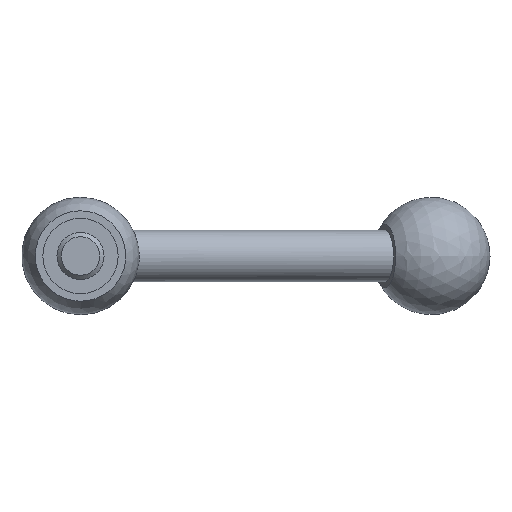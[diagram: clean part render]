
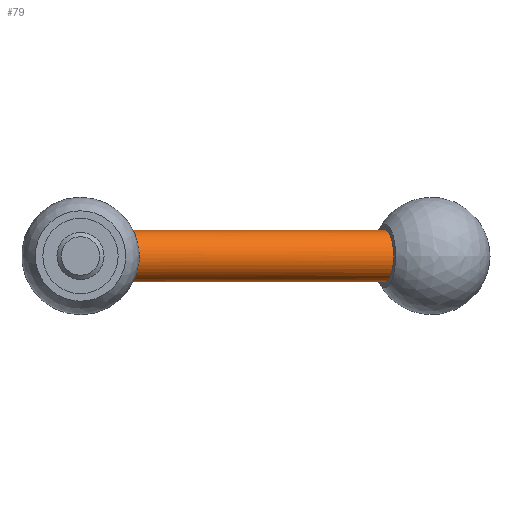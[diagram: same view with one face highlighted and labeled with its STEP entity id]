
A CAD part, front view. The second image highlights one B-rep face of the part: STEP entity #79.
In plain terms, the highlighted cylindrical face has radius 5.5 mm (diameter 11 mm), a full revolution.
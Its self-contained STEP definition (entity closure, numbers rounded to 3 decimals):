
#79 = ADVANCED_FACE( '', ( #100, #101 ), #102, .T. );
#100 = FACE_OUTER_BOUND( '', #137, .T. );
#101 = FACE_OUTER_BOUND( '', #138, .T. );
#102 = CYLINDRICAL_SURFACE( '', #139, 5.5 );
#137 = EDGE_LOOP( '', ( #184 ) );
#138 = EDGE_LOOP( '', ( #185, #186 ) );
#139 = AXIS2_PLACEMENT_3D( '', #187, #188, #189 );
#184 = ORIENTED_EDGE( '', *, *, #235, .F. );
#185 = ORIENTED_EDGE( '', *, *, #232, .F. );
#186 = ORIENTED_EDGE( '', *, *, #234, .T. );
#187 = CARTESIAN_POINT( '', ( 86.246, 49.775, 0. ) );
#188 = DIRECTION( '', ( -0.94, -0.342, 0. ) );
#189 = DIRECTION( '', ( -0.342, 0.94, 0. ) );
#232 = EDGE_CURVE( '', #248, #247, #250, .T. );
#234 = EDGE_CURVE( '', #248, #247, #253, .T. );
#235 = EDGE_CURVE( '', #254, #254, #255, .T. );
#247 = VERTEX_POINT( '', #272 );
#248 = VERTEX_POINT( '', #273 );
#250 = B_SPLINE_CURVE_WITH_KNOTS( '', 3, ( #275, #276, #277, #278, #279, #280, #281, #282, #283, #284, #285, #286, #287, #288, #289, #290, #291, #292, #293, #294, #295, #296, #297, #298, #299, #300, #301, #302, #303, #304, #305, #306, #307, #308, #309, #310, #311, #312, #313, #314, #315, #316, #317, #318, #319, #320, #321, #322, #323, #324, #325, #326, #327, #328, #329, #330, #331, #332, #333, #334 ), .UNSPECIFIED., .F., .F., ( 4, 2, 2, 2, 2, 2, 2, 2, 2, 2, 2, 2, 2, 2, 2, 2, 2, 2, 2, 2, 2, 2, 2, 2, 2, 2, 2, 2, 2, 4 ), ( 0., 0.002, 0.004, 0.005, 0.005, 0.006, 0.007, 0.008, 0.009, 0.01, 0.011, 0.012, 0.013, 0.014, 0.015, 0.015, 0.016, 0.017, 0.018, 0.019, 0.02, 0.021, 0.022, 0.023, 0.024, 0.024, 0.025, 0.026, 0.027, 0.029 ), .UNSPECIFIED. );
#253 = B_SPLINE_CURVE_WITH_KNOTS( '', 3, ( #337, #338, #339, #340, #341, #342, #343, #344, #345, #346, #347, #348, #349, #350 ), .UNSPECIFIED., .F., .F., ( 4, 2, 2, 2, 2, 2, 4 ), ( 0., 0.002, 0.002, 0.003, 0.004, 0.005, 0.006 ), .UNSPECIFIED. );
#254 = VERTEX_POINT( '', #351 );
#255 = CIRCLE( '', #352, 5.5 );
#272 = CARTESIAN_POINT( '', ( 6.981, 26., 2.74 ) );
#273 = CARTESIAN_POINT( '', ( 6.981, 26., -2.74 ) );
#275 = CARTESIAN_POINT( '', ( 6.981, 26., -2.74 ) );
#276 = CARTESIAN_POINT( '', ( 7.149, 25.738, -3.269 ) );
#277 = CARTESIAN_POINT( '', ( 7.359, 25.41, -3.732 ) );
#278 = CARTESIAN_POINT( '', ( 7.856, 24.625, -4.53 ) );
#279 = CARTESIAN_POINT( '', ( 8.132, 24.187, -4.845 ) );
#280 = CARTESIAN_POINT( '', ( 8.582, 23.466, -5.192 ) );
#281 = CARTESIAN_POINT( '', ( 8.736, 23.219, -5.284 ) );
#282 = CARTESIAN_POINT( '', ( 9.046, 22.718, -5.42 ) );
#283 = CARTESIAN_POINT( '', ( 9.203, 22.463, -5.465 ) );
#284 = CARTESIAN_POINT( '', ( 9.522, 21.945, -5.507 ) );
#285 = CARTESIAN_POINT( '', ( 9.682, 21.683, -5.504 ) );
#286 = CARTESIAN_POINT( '', ( 9.996, 21.169, -5.449 ) );
#287 = CARTESIAN_POINT( '', ( 10.151, 20.914, -5.398 ) );
#288 = CARTESIAN_POINT( '', ( 10.457, 20.41, -5.248 ) );
#289 = CARTESIAN_POINT( '', ( 10.608, 20.161, -5.148 ) );
#290 = CARTESIAN_POINT( '', ( 10.895, 19.685, -4.906 ) );
#291 = CARTESIAN_POINT( '', ( 11.032, 19.457, -4.764 ) );
#292 = CARTESIAN_POINT( '', ( 11.294, 19.019, -4.435 ) );
#293 = CARTESIAN_POINT( '', ( 11.42, 18.808, -4.247 ) );
#294 = CARTESIAN_POINT( '', ( 11.65, 18.422, -3.84 ) );
#295 = CARTESIAN_POINT( '', ( 11.756, 18.245, -3.62 ) );
#296 = CARTESIAN_POINT( '', ( 11.948, 17.921, -3.145 ) );
#297 = CARTESIAN_POINT( '', ( 12.036, 17.773, -2.888 ) );
#298 = CARTESIAN_POINT( '', ( 12.185, 17.521, -2.356 ) );
#299 = CARTESIAN_POINT( '', ( 12.248, 17.414, -2.08 ) );
#300 = CARTESIAN_POINT( '', ( 12.35, 17.242, -1.508 ) );
#301 = CARTESIAN_POINT( '', ( 12.389, 17.175, -1.21 ) );
#302 = CARTESIAN_POINT( '', ( 12.441, 17.087, -0.61 ) );
#303 = CARTESIAN_POINT( '', ( 12.454, 17.065, -0.309 ) );
#304 = CARTESIAN_POINT( '', ( 12.455, 17.064, 0.297 ) );
#305 = CARTESIAN_POINT( '', ( 12.442, 17.086, 0.605 ) );
#306 = CARTESIAN_POINT( '', ( 12.39, 17.174, 1.204 ) );
#307 = CARTESIAN_POINT( '', ( 12.352, 17.239, 1.497 ) );
#308 = CARTESIAN_POINT( '', ( 12.25, 17.41, 2.069 ) );
#309 = CARTESIAN_POINT( '', ( 12.186, 17.519, 2.351 ) );
#310 = CARTESIAN_POINT( '', ( 12.037, 17.771, 2.884 ) );
#311 = CARTESIAN_POINT( '', ( 11.952, 17.915, 3.136 ) );
#312 = CARTESIAN_POINT( '', ( 11.76, 18.238, 3.611 ) );
#313 = CARTESIAN_POINT( '', ( 11.652, 18.419, 3.837 ) );
#314 = CARTESIAN_POINT( '', ( 11.421, 18.806, 4.245 ) );
#315 = CARTESIAN_POINT( '', ( 11.298, 19.012, 4.43 ) );
#316 = CARTESIAN_POINT( '', ( 11.036, 19.449, 4.758 ) );
#317 = CARTESIAN_POINT( '', ( 10.897, 19.682, 4.904 ) );
#318 = CARTESIAN_POINT( '', ( 10.609, 20.159, 5.148 ) );
#319 = CARTESIAN_POINT( '', ( 10.461, 20.404, 5.246 ) );
#320 = CARTESIAN_POINT( '', ( 10.157, 20.906, 5.396 ) );
#321 = CARTESIAN_POINT( '', ( 9.999, 21.165, 5.449 ) );
#322 = CARTESIAN_POINT( '', ( 9.683, 21.683, 5.504 ) );
#323 = CARTESIAN_POINT( '', ( 9.525, 21.941, 5.507 ) );
#324 = CARTESIAN_POINT( '', ( 9.208, 22.455, 5.466 ) );
#325 = CARTESIAN_POINT( '', ( 9.049, 22.713, 5.422 ) );
#326 = CARTESIAN_POINT( '', ( 8.736, 23.218, 5.284 ) );
#327 = CARTESIAN_POINT( '', ( 8.583, 23.463, 5.193 ) );
#328 = CARTESIAN_POINT( '', ( 8.287, 23.939, 4.965 ) );
#329 = CARTESIAN_POINT( '', ( 8.142, 24.169, 4.828 ) );
#330 = CARTESIAN_POINT( '', ( 7.864, 24.612, 4.51 ) );
#331 = CARTESIAN_POINT( '', ( 7.733, 24.819, 4.332 ) );
#332 = CARTESIAN_POINT( '', ( 7.365, 25.401, 3.742 ) );
#333 = CARTESIAN_POINT( '', ( 7.149, 25.738, 3.269 ) );
#334 = CARTESIAN_POINT( '', ( 6.981, 26., 2.74 ) );
#337 = CARTESIAN_POINT( '', ( 6.981, 26., -2.74 ) );
#338 = CARTESIAN_POINT( '', ( 7.133, 26.29, -2.355 ) );
#339 = CARTESIAN_POINT( '', ( 7.262, 26.531, -1.933 ) );
#340 = CARTESIAN_POINT( '', ( 7.402, 26.788, -1.234 ) );
#341 = CARTESIAN_POINT( '', ( 7.438, 26.854, -0.996 ) );
#342 = CARTESIAN_POINT( '', ( 7.487, 26.943, -0.508 ) );
#343 = CARTESIAN_POINT( '', ( 7.5, 26.967, -0.257 ) );
#344 = CARTESIAN_POINT( '', ( 7.5, 26.967, 0.248 ) );
#345 = CARTESIAN_POINT( '', ( 7.488, 26.944, 0.497 ) );
#346 = CARTESIAN_POINT( '', ( 7.439, 26.856, 0.987 ) );
#347 = CARTESIAN_POINT( '', ( 7.402, 26.789, 1.231 ) );
#348 = CARTESIAN_POINT( '', ( 7.264, 26.534, 1.927 ) );
#349 = CARTESIAN_POINT( '', ( 7.133, 26.291, 2.355 ) );
#350 = CARTESIAN_POINT( '', ( 6.981, 26., 2.74 ) );
#351 = CARTESIAN_POINT( '', ( 62.752, 47.077, 0. ) );
#352 = AXIS2_PLACEMENT_3D( '', #377, #378, #379 );
#377 = CARTESIAN_POINT( '', ( 64.633, 41.909, 0. ) );
#378 = DIRECTION( '', ( 0.94, 0.342, 0. ) );
#379 = DIRECTION( '', ( -0.342, 0.94, 0. ) );
